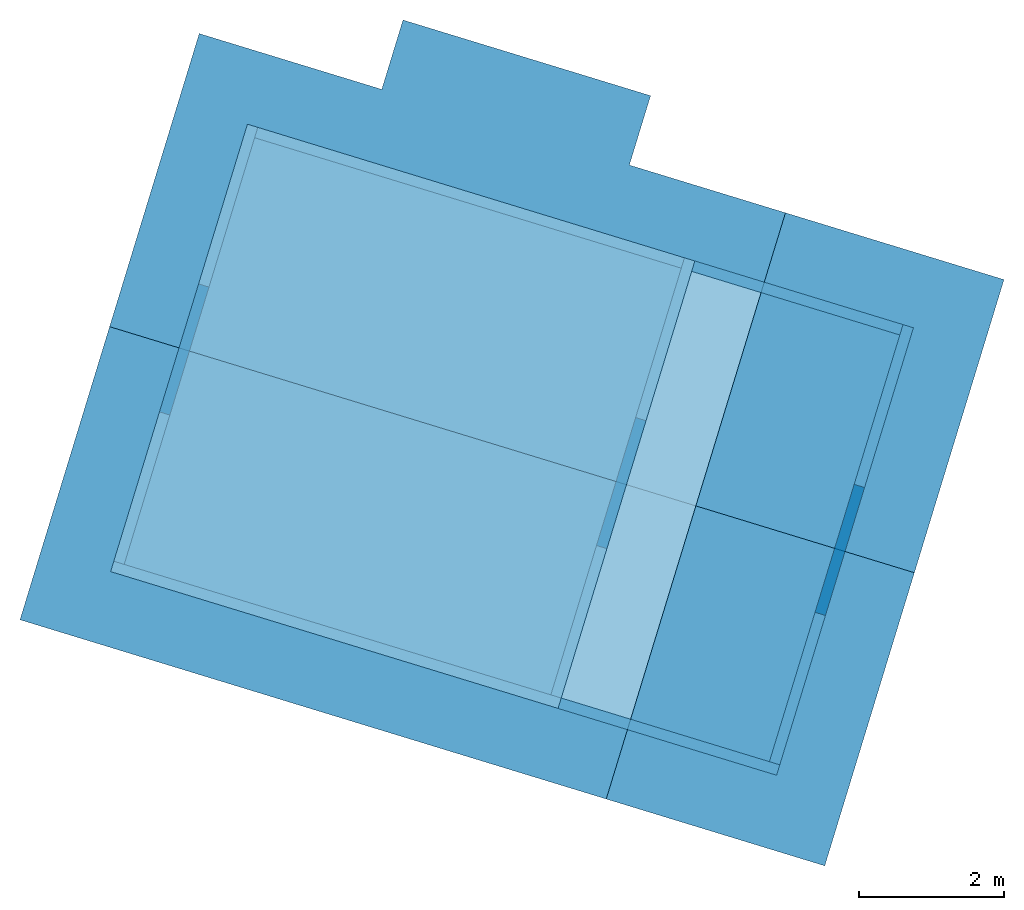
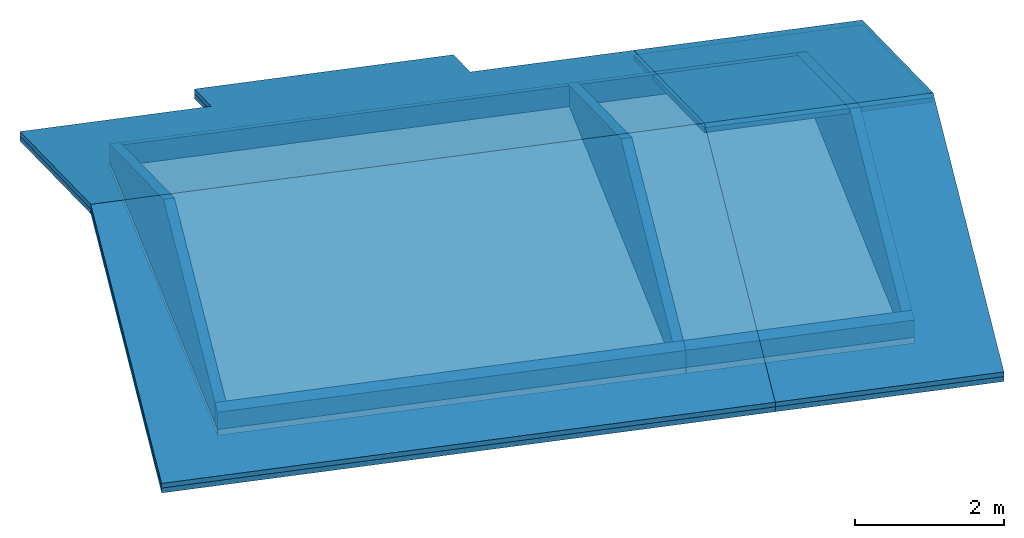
# One storey: 8 building element parts, 7 walls, 2 slabs, 4 elements without a shape of their own.
"""IFC2X3 building model written with IfcOpenShell, lengths in millimetres."""

from ifc_helpers import new_model, entity, si_unit, converted_unit, derived_unit, money_unit, direction, frame, origin_with_axes, place, context, subcontext, project, spatial, faceted_brep, material, type_object, element, aggregate, save


model = new_model("IFC2X3")

# Units and contexts
model_context = context("Model", 3, precision=0.01, world=origin_with_axes(), true_north=direction((0.0, 1.0)))
body_context = subcontext(model_context, "Body", "Model", "MODEL_VIEW")
ifc_project = project(units=[si_unit("LENGTHUNIT", "METRE", prefix="MILLI"), si_unit("AREAUNIT", "SQUARE_METRE"), si_unit("VOLUMEUNIT", "CUBIC_METRE"), converted_unit("PLANEANGLEUNIT", "DEGREE", entity("IfcPlaneAngleMeasure", 0.0174532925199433), si_unit("PLANEANGLEUNIT", "RADIAN"), dimensions=[0, 0, 0, 0, 0, 0, 0]), money_unit("USD"), converted_unit("TIMEUNIT", "Year", entity("IfcTimeMeasure", 31557600.0), si_unit("TIMEUNIT", "SECOND"), dimensions=[0, 0, 1, 0, 0, 0, 0]), si_unit("MASSUNIT", "GRAM", prefix="KILO"), si_unit("THERMODYNAMICTEMPERATUREUNIT", "DEGREE_CELSIUS"), si_unit("LUMINOUSINTENSITYUNIT", "LUMEN"), si_unit("ENERGYUNIT", "JOULE", prefix="MEGA"), derived_unit("THERMALCONDUCTANCEUNIT", [(si_unit("POWERUNIT", "WATT"), 1), (si_unit("LENGTHUNIT", "METRE"), -1), (si_unit("THERMODYNAMICTEMPERATUREUNIT", "KELVIN"), -1)]), derived_unit("SPECIFICHEATCAPACITYUNIT", [(si_unit("ENERGYUNIT", "JOULE"), 1), (si_unit("MASSUNIT", "GRAM", prefix="KILO"), -1), (si_unit("THERMODYNAMICTEMPERATUREUNIT", "KELVIN"), -1)]), derived_unit("MASSDENSITYUNIT", [(si_unit("MASSUNIT", "GRAM", prefix="KILO"), 1), (si_unit("VOLUMEUNIT", "CUBIC_METRE"), -1)])], contexts=[model_context])

# Site, building, storey
site_placement = place(None, frame((0.0, 0.0, 0.0), z_axis=(0.0, 0.0, 1.0), x_axis=(0.9563047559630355, -0.2923717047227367, 0.0)))
site = spatial("IfcSite", under=ifc_project, at=site_placement, Name="Site", CompositionType="ELEMENT")
building_placement = place(site_placement, origin_with_axes())
building = spatial("IfcBuilding", under=site, at=building_placement, Name="Casa Térrea Isolada", CompositionType="ELEMENT")
storey_placement = place(building_placement, frame((0.0, 0.0, 2500.0), z_axis=(0.0, 0.0, 1.0), x_axis=(1.0, 0.0, 0.0)))
storey = spatial("IfcBuildingStorey", under=building, at=storey_placement, Name="Cobertura", CompositionType="ELEMENT", Elevation=2500.0)

# Slabs
ifc_material_1 = material(Name="Concreto - Estrutural")
slab_type = type_object("IfcSlabType", Name="Concreto - Estrutural 100", PredefinedType="FLOOR")
slab_1_placement = place(storey_placement, frame((6449.999942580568, 0.002973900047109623, 0.0), z_axis=(0.0, 0.0, 1.0), x_axis=(1.0, 0.0, 0.0)))
element("IfcSlab", 1, at=slab_1_placement, inside=storey, type_object=slab_type, material=ifc_material_1, Name="Laje 02", PredefinedType="FLOOR", context=body_context, shape_type="Brep", body=[
    faceted_brep([(0.0, 0.0, 100.0000000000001), (0.0, 0.0, 0.0), (3149.997026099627, 0.0, 0.0), (3149.997026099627, 0.0, 100.0000000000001), (0.0, 6449.999930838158, 100.0000000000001), (0.0, 6449.999930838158, 0.0), (3149.997026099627, 6449.999930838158, 0.0), (3149.997026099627, 6449.999930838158, 100.0000000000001)], [[[0, 1, 2, 3]], [[4, 5, 1, 0]], [[2, 1, 5, 6]], [[3, 2, 6, 7]], [[4, 0, 3, 7]], [[7, 6, 5, 4]]]),
])
slab_2_placement = place(storey_placement, frame((-0.002973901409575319, 0.002973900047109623, 0.0), z_axis=(0.0, 0.0, 1.0), x_axis=(1.0, 0.0, 0.0)))
element("IfcSlab", 2, at=slab_2_placement, inside=storey, type_object=slab_type, material=ifc_material_1, Name="Laje 01", PredefinedType="FLOOR", context=body_context, shape_type="Brep", body=[
    faceted_brep([(0.0, 0.0, 100.0000000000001), (0.0, 0.0, 0.0), (6450.002916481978, 0.0, 0.0), (6450.002916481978, 0.0, 100.0000000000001), (0.0, 6449.999930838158, 100.0000000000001), (0.0, 6449.999930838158, 0.0), (6450.002916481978, 6449.999930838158, 0.0), (6450.002916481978, 6449.999930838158, 100.0000000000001)], [[[0, 1, 2, 3]], [[4, 5, 1, 0]], [[2, 1, 5, 6]], [[3, 2, 6, 7]], [[4, 0, 3, 7]], [[7, 6, 5, 4]]]),
])

# Walls
ifc_material_2 = material(Name="Bloco de Concreto - Estrutural")
wall_type = type_object("IfcWallType", Name="Bloco de Concreto - Estrutural 150", PredefinedType="NOTDEFINED")
wall_1_placement = place(storey_placement, frame((9524.996974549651, 6375.007296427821, 100.0000000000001), z_axis=(0.0, 0.0, 1.0), x_axis=(-0.9999999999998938, -4.610697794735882e-07, 0.0)))
element("IfcWall", 3, at=wall_1_placement, inside=storey, type_object=wall_type, material=ifc_material_2, Name="Parede 19", context=body_context, shape_type="Brep", body=[
    faceted_brep([(3074.999971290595, -75.00000000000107, 0.0), (3074.999971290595, -75.00000000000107, 280.7751206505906), (74.99999999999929, -75.00000000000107, 280.7751483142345), (74.99999999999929, -75.00000000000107, 0.0), (3074.999971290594, 74.99999999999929, 0.0), (3074.999971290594, 74.99999999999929, 340.775120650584), (74.99999999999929, 74.99999999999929, 340.7751483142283), (74.99999999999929, 74.99999999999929, 0.0)], [[[0, 1, 2, 3]], [[4, 5, 1, 0]], [[6, 2, 1, 5]], [[3, 2, 6, 7]], [[0, 3, 7, 4]], [[6, 5, 4, 7]]]),
])
wall_2_placement = place(storey_placement, frame((6374.997003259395, 6375.005844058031, 100.0000000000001), z_axis=(0.0, 0.0, 1.0), x_axis=(-0.9999999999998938, -4.610697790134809e-07, 0.0)))
element("IfcWall", 4, at=wall_2_placement, inside=storey, type_object=wall_type, material=ifc_material_2, Name="Parede 09", context=body_context, shape_type="Brep", body=[
    faceted_brep([(6224.999942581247, -75.00000000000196, 0.0), (6224.999942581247, -75.00000000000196, 280.7762825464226), (74.99999999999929, -75.00000000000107, 280.7751483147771), (74.99999999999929, -75.00000000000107, 0.0), (6224.999942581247, 74.99999999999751, 0.0), (6224.999942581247, 74.99999999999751, 340.776282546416), (74.99999999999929, 74.99999999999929, 340.7751483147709), (74.99999999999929, 74.99999999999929, 0.0)], [[[0, 1, 2, 3]], [[4, 5, 1, 0]], [[5, 6, 2, 1]], [[3, 2, 6, 7]], [[7, 4, 0, 3]], [[7, 6, 5, 4]]]),
])
wall_3_placement = place(storey_placement, frame((6374.999908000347, 75.00293931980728, 100.0000000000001), z_axis=(0.0, 0.0, 1.0), x_axis=(-4.610697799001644e-07, 0.9999999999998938, 0.0)))
element("IfcWall", 5, at=wall_3_placement, inside=storey, type_object=wall_type, material=ifc_material_2, Name="Parede 12", context=body_context, shape_type="Brep", body=[
    faceted_brep([(6375.002904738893, 75.00000000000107, 0.0), (6375.002904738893, 75.00000000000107, 280.7751483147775), (6375.002904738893, -74.99999999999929, 280.7751206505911), (6375.002904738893, -74.99999999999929, 0.0), (74.99999999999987, 75.00000000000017, 340.7786340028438), (3149.997095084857, 75.00000000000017, 1570.777472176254), (74.99999999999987, 75.00000000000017, 0.0), (3149.997025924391, -74.99999999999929, 1570.777472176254), (75.00000000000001, -75.00000000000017, 340.7786616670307), (75.00000000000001, -75.00000000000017, 0.0)], [[[0, 1, 2, 3]], [[4, 5, 1, 0, 6]], [[5, 7, 2, 1]], [[3, 2, 7, 8, 9]], [[9, 6, 0, 3]], [[8, 7, 5, 4]], [[9, 8, 4, 6]]]),
])
wall_4_placement = place(storey_placement, frame((74.99996541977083, 75.00003458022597, 100.0000000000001), z_axis=(0.0, 0.0, 1.0), x_axis=(-4.610697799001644e-07, 0.9999999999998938, 0.0)))
element("IfcWall", 6, at=wall_4_placement, inside=storey, type_object=wall_type, material=ifc_material_2, Name="Parede 11", context=body_context, shape_type="Brep", body=[
    faceted_brep([(6375.002904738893, 75.00000000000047, 0.0), (6375.002904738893, 75.00000000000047, 280.77631021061), (6375.002904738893, -74.99999999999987, 280.7762825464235), (6375.002904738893, -74.99999999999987, 0.0), (74.99999999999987, 75.00000000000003, 340.7774721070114), (3149.999999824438, 74.99999999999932, 1570.777472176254), (74.99999999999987, 75.00000000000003, 0.0), (3149.999930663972, -75.0000000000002, 1570.777472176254), (75.00000000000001, -75.00000000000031, 340.7774997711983), (75.00000000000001, -75.00000000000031, 0.0)], [[[0, 1, 2, 3]], [[4, 5, 1, 0, 6]], [[5, 7, 2, 1]], [[3, 2, 7, 8, 9]], [[9, 6, 0, 3]], [[8, 7, 5, 4]], [[9, 8, 4, 6]]]),
])
wall_5_placement = place(storey_placement, frame((9524.999879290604, 75.00439168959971, 100.0000000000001), z_axis=(0.0, 0.0, 1.0), x_axis=(-4.610697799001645e-07, 0.9999999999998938, 0.0)))
element("IfcWall", 7, at=wall_5_placement, inside=storey, type_object=wall_type, material=ifc_material_2, Name="Parede 21", context=body_context, shape_type="Brep", body=[
    faceted_brep([(6375.002904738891, 74.99999999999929, 0.0), (6375.002904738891, 74.99999999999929, 280.7751483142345), (6375.002904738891, -75.00000000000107, 280.7751206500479), (6375.002904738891, -75.00000000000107, 0.0), (75.00000000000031, 74.99999999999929, 340.7786340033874), (3149.997095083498, 75.00000000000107, 1570.777472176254), (74.99999999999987, 74.99999999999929, 0.0), (3149.997025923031, -74.99999999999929, 1570.777472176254), (75.00000000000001, -75.00000000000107, 340.7786616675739), (75.00000000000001, -75.00000000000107, 0.0)], [[[0, 1, 2, 3]], [[4, 5, 1, 0, 6]], [[5, 7, 2, 1]], [[3, 2, 7, 8, 9]], [[9, 6, 0, 3]], [[8, 7, 5, 4]], [[9, 8, 4, 6]]]),
])
wall_6_placement = place(storey_placement, frame((6374.999908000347, 75.00293931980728, 100.0000000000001), z_axis=(0.0, 0.0, 1.0), x_axis=(-0.9999999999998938, -4.610697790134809e-07, 0.0)))
element("IfcWall", 8, at=wall_6_placement, inside=storey, type_object=wall_type, material=ifc_material_2, Name="Parede 10", context=body_context, shape_type="Brep", body=[
    faceted_brep([(6374.999942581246, -75.00000000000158, 0.0), (6374.999942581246, -75.00000000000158, 340.7774721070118), (-75.00000000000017, -75.00000000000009, 340.7786616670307), (-75.00000000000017, -75.00000000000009, 0.0), (6374.999942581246, 74.99999999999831, 0.0), (6374.999942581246, 74.99999999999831, 280.7774721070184), (-75.00000000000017, 75.00000000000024, 280.7786616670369), (-75.00000000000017, 75.00000000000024, 0.0)], [[[0, 1, 2, 3]], [[4, 5, 1, 0]], [[5, 6, 2, 1]], [[3, 2, 6, 7]], [[3, 7, 4, 0]], [[7, 6, 5, 4]]]),
])
wall_7_placement = place(storey_placement, frame((9524.999879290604, 75.00439168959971, 100.0000000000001), z_axis=(0.0, 0.0, 1.0), x_axis=(-0.9999999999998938, -4.610697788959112e-07, 0.0)))
element("IfcWall", 9, at=wall_7_placement, inside=storey, type_object=wall_type, material=ifc_material_2, Name="Parede 20", context=body_context, shape_type="Brep", body=[
    faceted_brep([(3074.999971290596, -75.0000000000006, 0.0), (3074.999971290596, -75.0000000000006, 340.7786616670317), (-74.99999999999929, -75.0000000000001, 340.7786616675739), (-74.99999999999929, -75.0000000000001, 0.0), (3074.999971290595, 74.99999999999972, 0.0), (3074.999971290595, 74.99999999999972, 280.7786616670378), (-75.00000000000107, 75.00000000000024, 280.7786616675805), (-75.00000000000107, 75.00000000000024, 0.0)], [[[0, 1, 2, 3]], [[4, 5, 1, 0]], [[2, 1, 5, 6]], [[3, 2, 6, 7]], [[0, 3, 7, 4]], [[6, 5, 4, 7]]]),
])

# Roof, building element parts
roof_1_placement = place(storey_placement, frame((6450.002916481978, 0.0, 299.9999999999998), z_axis=(0.0, 0.0, 1.0), x_axis=(-1.0, 0.0, 0.0)))
roof_1 = element("IfcRoof", 10, at=roof_1_placement, inside=storey, Name="Telhado 02", ShapeType="NOTDEFINED")
ifc_material_3 = material(Name="Telha - Cobertura")
building_element_part_1_placement = place(roof_1_placement, origin_with_axes())
building_element_part_1 = element("IfcBuildingElementPart", 11, at=building_element_part_1_placement, material=ifc_material_3, Name="Telha - Cobertura", context=body_context, shape_type="Brep", body=[
    faceted_brep([(7450.000069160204, 1000.000000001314, -243.8302205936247), (-999.9999308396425, 1000.000000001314, -243.8302205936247), (-999.9999308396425, -3224.999999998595, 1446.169779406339), (7450.000069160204, -3224.999999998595, 1446.169779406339), (7450.000069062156, 999.9999999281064, -319.2225278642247), (-999.9999310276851, 999.9999999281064, -319.2225278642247), (-999.9999310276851, -3225.000000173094, 1370.777472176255), (7450.000069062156, -3225.000000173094, 1370.777472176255)], [[[0, 1, 2, 3]], [[4, 5, 1, 0]], [[5, 6, 2, 1]], [[6, 7, 3, 2]], [[7, 4, 0, 3]], [[6, 5, 4, 7]]]),
])
ifc_material_4 = material(Name="Madeiramento - Estrutural")
building_element_part_2_placement = place(roof_1_placement, origin_with_axes())
building_element_part_2 = element("IfcBuildingElementPart", 12, at=building_element_part_2_placement, material=ifc_material_4, Name="Madeiramento - Estrutural", context=body_context, shape_type="Brep", body=[
    faceted_brep([(0.00446085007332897, -3225.000000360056, 1290.000000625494), (0.004460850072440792, -3225.000000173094, 1370.777472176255), (-999.9999310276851, -3225.000000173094, 1370.777472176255), (-999.9999312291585, -3225.000000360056, 1290.000000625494), (0.003043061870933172, -150.0029739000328, 140.7786616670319), (0.003043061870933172, -150.0029739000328, 60.0011900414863), (-999.9999310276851, -150.0034349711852, 140.778846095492), (-999.9999312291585, -150.0034349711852, 60.00137446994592)], [[[0, 1, 2, 3]], [[4, 1, 0, 5]], [[1, 4, 6, 2]], [[6, 7, 3, 2]], [[5, 0, 3, 7]], [[7, 6, 4, 5]]]),
    faceted_brep([(6300.002985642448, -150.0000691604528, 140.7774997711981), (150.0030430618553, -150.0029047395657, 140.7786340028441), (150.0044608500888, -3225.000000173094, 1370.777472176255), (6300.004403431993, -3225.000000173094, 1370.777472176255), (150.0030430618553, -150.0029047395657, 60.00116237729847), (6300.002985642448, -150.0000691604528, 60.00002814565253), (150.0044608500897, -3225.000000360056, 1290.000000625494), (6300.004403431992, -3225.000000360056, 1290.000000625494)], [[[0, 1, 2, 3]], [[4, 1, 0, 5]], [[1, 4, 6, 2]], [[2, 6, 7, 3]], [[5, 0, 3, 7]], [[4, 5, 7, 6]]]),
    faceted_brep([(-999.9999312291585, -0.003434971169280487, 0.001374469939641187), (6450.002916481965, 0.0, 4.814726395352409e-07), (6450.002916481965, 0.0, 80.7774721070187), (-999.9999310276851, -0.003434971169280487, 80.77884609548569), (-999.9999312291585, 999.9999998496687, -399.9999994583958), (7450.000068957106, 999.9999998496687, -399.9999994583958), (7450.000068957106, -3225.000000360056, 1290.000000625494), (6450.004403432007, -3225.000000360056, 1290.000000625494), (6450.002985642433, -149.9999999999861, 60.00000048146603), (6450.002985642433, -149.9999999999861, 140.7774721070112), (6450.004403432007, -3225.000000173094, 1370.777472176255), (7450.000069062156, -3225.000000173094, 1370.777472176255), (7450.000069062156, 999.9999999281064, -319.2225278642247), (-999.9999310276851, 999.9999999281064, -319.2225278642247)], [[[0, 1, 2, 3]], [[1, 0, 4, 5, 6, 7, 8]], [[8, 9, 2, 1]], [[2, 9, 10, 11, 12, 13, 3]], [[0, 3, 13, 4]], [[4, 13, 12, 5]], [[5, 12, 11, 6]], [[10, 7, 6, 11]], [[9, 8, 7, 10]]]),
])
aggregate(roof_1, [building_element_part_1, building_element_part_2])

roof_2_placement = place(storey_placement, frame((0.0, 6449.999999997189, 299.9999999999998), z_axis=(0.0, 0.0, 1.0), x_axis=(1.0, 0.0, 0.0)))
roof_2 = element("IfcRoof", 13, at=roof_2_placement, inside=storey, Name="Telhado 01", ShapeType="NOTDEFINED")
building_element_part_3_placement = place(roof_2_placement, origin_with_axes())
building_element_part_3 = element("IfcBuildingElementPart", 14, at=building_element_part_3_placement, material=ifc_material_3, Name="Telha - Cobertura", context=body_context, shape_type="Brep", body=[
    faceted_brep([(5200.002859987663, 2000.000022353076, -643.8302295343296), (1631.398156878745, 2000.000022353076, -643.8302295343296), (1631.398156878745, 1000.00000000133, -243.8302205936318), (-999.997152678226, 1000.00000000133, -243.8302205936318), (-999.997152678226, -3224.999999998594, 1446.169779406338), (7450.002847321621, -3224.999999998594, 1446.169779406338), (7450.002847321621, 1000.00000000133, -243.8302205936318), (5200.002859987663, 1000.00000000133, -243.8302205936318), (5200.00286006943, 2000.00002254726, -719.2225369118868), (1631.398156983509, 2000.00002254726, -719.2225369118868), (1631.398156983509, 999.9999999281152, -319.2225278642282), (-999.9971528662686, 999.9999999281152, -319.2225278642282), (-999.9971528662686, -3225.000000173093, 1370.777472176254), (7450.002847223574, -3225.000000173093, 1370.777472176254), (7450.002847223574, 999.9999999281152, -319.2225278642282), (5200.00286006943, 999.9999999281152, -319.2225278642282)], [[[0, 1, 2, 3, 4, 5, 6, 7]], [[8, 9, 1, 0]], [[9, 10, 2, 1]], [[10, 11, 3, 2]], [[11, 12, 4, 3]], [[12, 13, 5, 4]], [[13, 14, 6, 5]], [[14, 15, 7, 6]], [[15, 8, 0, 7]], [[14, 13, 12, 11, 10, 9, 8, 15]]]),
])
building_element_part_4_placement = place(roof_2_placement, origin_with_axes())
building_element_part_4 = element("IfcBuildingElementPart", 15, at=building_element_part_4_placement, material=ifc_material_4, Name="Madeiramento - Estrutural", context=body_context, shape_type="Brep", body=[
    faceted_brep([(6299.998455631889, -3225.000000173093, 1370.777472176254), (6299.997037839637, -149.9941905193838, 140.7751483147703), (149.9970952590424, -149.9970260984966, 140.7762825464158), (149.9985130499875, -3225.000000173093, 1370.777472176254), (6299.997037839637, -149.9941905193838, 59.99767668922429), (6299.99845563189, -3225.000000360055, 1290.000000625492), (149.9970952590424, -149.9970260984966, 59.99881092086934), (149.9985130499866, -3225.000000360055, 1290.000000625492)], [[[0, 1, 2, 3]], [[4, 1, 0, 5]], [[1, 4, 6, 2]], [[3, 2, 6, 7]], [[5, 0, 3, 7]], [[4, 5, 7, 6]]]),
    faceted_brep([(6449.99703783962, -149.994121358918, 59.99764902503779), (6449.99703783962, -149.994121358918, 140.7751206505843), (7450.002847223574, -149.9936602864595, 140.7749362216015), (7450.002847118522, -149.9936602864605, 59.99746459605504), (6449.998455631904, -3225.000000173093, 1370.777472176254), (6449.998455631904, -3225.000000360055, 1290.000000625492), (7450.002847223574, -3225.000000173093, 1370.777472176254), (7450.002847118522, -3225.000000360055, 1290.000000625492)], [[[0, 1, 2, 3]], [[4, 1, 0, 5]], [[1, 4, 6, 2]], [[3, 2, 6, 7]], [[5, 0, 3, 7]], [[4, 5, 7, 6]]]),
    faceted_brep([(6299.996968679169, 0.005809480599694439, 80.77514831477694), (6449.996968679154, 0.005878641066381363, 80.77512065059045), (7450.002847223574, 0.006339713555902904, 80.77493622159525), (7450.002847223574, 999.9999999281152, -319.2225278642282), (5200.00286006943, 999.9999999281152, -319.2225278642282), (5200.00286006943, 2000.00002254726, -719.2225369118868), (1631.398156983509, 2000.00002254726, -719.2225369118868), (1631.398156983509, 999.9999999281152, -319.2225278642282), (-999.9971528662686, 999.9999999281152, -319.2225278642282), (-999.9971528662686, -3225.000000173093, 1370.777472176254), (-0.001486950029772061, -3225.000000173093, 1370.777472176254), (-0.002973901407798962, 0.002904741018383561, 80.77631021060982), (149.9970260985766, 0.002973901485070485, 80.77628254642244), (6449.996968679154, 0.005878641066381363, -0.002350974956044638), (6299.996968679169, 0.005809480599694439, -0.002323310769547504), (7450.002847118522, 0.006339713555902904, -0.002535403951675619), (7450.002847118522, 999.9999998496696, -399.9999994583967), (5200.002860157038, 999.9999998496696, -399.9999994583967), (5200.002860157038, 2000.000022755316, -800.0000086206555), (1631.398157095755, 2000.000022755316, -800.0000086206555), (1631.398157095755, 999.9999998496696, -399.9999994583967), (-999.997153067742, 999.9999998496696, -399.9999994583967), (-999.997153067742, -3225.000000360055, 1290.000000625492), (-0.001486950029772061, -3225.000000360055, 1290.000000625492), (-0.002973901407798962, 0.002904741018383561, -0.001161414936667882), (149.9970260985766, 0.002973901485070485, -0.001189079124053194)], [[[0, 1, 2, 3, 4, 5, 6, 7, 8, 9, 10, 11, 12]], [[13, 1, 0, 14]], [[1, 13, 15, 2]], [[2, 15, 16, 3]], [[16, 17, 4, 3]], [[17, 18, 5, 4]], [[18, 19, 6, 5]], [[19, 20, 7, 6]], [[20, 21, 8, 7]], [[21, 22, 9, 8]], [[23, 10, 9, 22]], [[11, 10, 23, 24]], [[25, 12, 11, 24]], [[14, 0, 12, 25]], [[13, 14, 25, 24, 23, 22, 21, 20, 19, 18, 17, 16, 15]]]),
])
aggregate(roof_2, [building_element_part_3, building_element_part_4])

roof_3_placement = place(storey_placement, frame((7450.002847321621, 6450.001452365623, 299.9999999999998), z_axis=(0.0, 0.0, 1.0), x_axis=(1.0, 0.0, 0.0)))
roof_3 = element("IfcRoof", 16, at=roof_3_placement, inside=storey, Name="Telhado 03", ShapeType="NOTDEFINED")
building_element_part_5_placement = place(roof_3_placement, origin_with_axes())
building_element_part_5 = element("IfcBuildingElementPart", 17, at=building_element_part_5_placement, material=ifc_material_3, Name="Telha - Cobertura", context=body_context, shape_type="Brep", body=[
    faceted_brep([(3149.996989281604, -3224.999999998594, 1446.169779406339), (3149.996989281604, 999.9999770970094, -243.8302114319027), (0.0, 999.9999770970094, -243.8302114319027), (0.0, -3224.999999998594, 1446.169779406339), (3149.996989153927, -3225.000000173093, 1370.777472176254), (3149.996989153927, 999.9999772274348, -319.2225187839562), (-1.880424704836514e-07, 999.9999772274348, -319.2225187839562), (-1.880424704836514e-07, -3225.000000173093, 1370.777472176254)], [[[0, 1, 2, 3]], [[4, 5, 1, 0]], [[5, 6, 2, 1]], [[6, 7, 3, 2]], [[7, 4, 0, 3]], [[6, 5, 4, 7]]]),
])
building_element_part_6_placement = place(roof_3_placement, origin_with_axes())
building_element_part_6 = element("IfcBuildingElementPart", 18, at=building_element_part_6_placement, material=ifc_material_4, Name="Madeiramento - Estrutural", context=body_context, shape_type="Brep", body=[
    faceted_brep([(1999.995579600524, -3225.000000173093, 1370.777472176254), (1999.994161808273, -149.9941905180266, 140.7751483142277), (-1.880424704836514e-07, -149.9951126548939, 140.7755171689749), (-1.880424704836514e-07, -3225.000000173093, 1370.777472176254), (1999.994161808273, -149.9941905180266, 59.99767668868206), (1999.995579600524, -3225.000000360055, 1290.000000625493), (-3.895159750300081e-07, -149.9951126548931, 59.9980455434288), (-3.895159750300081e-07, -3225.000000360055, 1290.000000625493)], [[[0, 1, 2, 3]], [[4, 1, 0, 5]], [[1, 4, 6, 2]], [[2, 6, 7, 3]], [[5, 0, 3, 7]], [[4, 5, 7, 6]]]),
    faceted_brep([(2149.994092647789, 0.005878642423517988, 80.77512065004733), (2149.995579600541, -3225.000000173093, 1370.777472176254), (3149.996989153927, -3225.000000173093, 1370.777472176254), (3149.996989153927, 999.9999772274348, -319.2225187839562), (-1.880424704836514e-07, 999.9999772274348, -319.2225187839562), (-1.880424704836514e-07, 0.004887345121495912, 80.77551716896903), (1999.994092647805, 0.005809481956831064, 80.77514831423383), (2149.994092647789, 0.005878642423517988, -0.002350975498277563), (2149.995579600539, -3225.000000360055, 1290.000000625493), (3149.996989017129, -3225.000000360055, 1290.000000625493), (3149.996989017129, 999.9999773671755, -399.9999904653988), (-3.895159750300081e-07, 999.9999773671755, -399.9999904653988), (-3.895159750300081e-07, 0.004887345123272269, -0.001954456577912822), (1999.994092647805, 0.005809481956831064, -0.002323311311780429)], [[[0, 1, 2, 3, 4, 5, 6]], [[1, 0, 7, 8]], [[1, 8, 9, 2]], [[2, 9, 10, 3]], [[3, 10, 11, 4]], [[12, 5, 4, 11]], [[13, 6, 5, 12]], [[0, 6, 13, 7]], [[7, 13, 12, 11, 10, 9, 8]]]),
])
aggregate(roof_3, [building_element_part_5, building_element_part_6])

roof_4_placement = place(storey_placement, frame((9599.999942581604, 0.001452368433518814, 299.9999999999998), z_axis=(0.0, 0.0, 1.0), x_axis=(-1.0, 0.0, 0.0)))
roof_4 = element("IfcRoof", 19, at=roof_4_placement, inside=storey, Name="Telhado 04", ShapeType="NOTDEFINED")
building_element_part_7_placement = place(roof_4_placement, origin_with_axes())
building_element_part_7 = element("IfcBuildingElementPart", 20, at=building_element_part_7_placement, material=ifc_material_3, Name="Telha - Cobertura", context=body_context, shape_type="Brep", body=[
    faceted_brep([(2149.997095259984, 1000.000000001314, -243.8302205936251), (-999.9999308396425, 1000.000000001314, -243.8302205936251), (-999.9999308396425, -3224.999999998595, 1446.169779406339), (2149.997095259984, -3224.999999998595, 1446.169779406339), (2149.997095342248, 999.9999999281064, -319.2225278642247), (-999.9999310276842, 999.9999999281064, -319.2225278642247), (-999.9999310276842, -3225.000000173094, 1370.777472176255), (2149.997095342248, -3225.000000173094, 1370.777472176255)], [[[0, 1, 2, 3]], [[4, 5, 1, 0]], [[5, 6, 2, 1]], [[6, 7, 3, 2]], [[7, 4, 0, 3]], [[6, 5, 4, 7]]]),
])
building_element_part_8_placement = place(roof_4_placement, origin_with_axes())
building_element_part_8 = element("IfcBuildingElementPart", 21, at=building_element_part_8_placement, material=ifc_material_4, Name="Madeiramento - Estrutural", context=body_context, shape_type="Brep", body=[
    faceted_brep([(2149.997095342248, -150.0019826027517, 140.7782651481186), (150.0000978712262, -150.0029047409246, 140.7786340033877), (150.0015156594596, -3225.000000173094, 1370.777472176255), (2149.997095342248, -3225.000000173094, 1370.777472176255), (150.0000978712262, -150.0029047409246, 60.00116237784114), (2149.99709543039, -150.0019826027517, 60.0007935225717), (150.0015156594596, -3225.000000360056, 1290.000000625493), (2149.99709543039, -3225.000000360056, 1290.000000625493)], [[[0, 1, 2, 3]], [[4, 1, 0, 5]], [[1, 4, 6, 2]], [[2, 6, 7, 3]], [[5, 0, 3, 7]], [[4, 5, 7, 6]]]),
    faceted_brep([(9.787124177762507e-05, -150.0029739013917, 60.00119004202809), (9.787124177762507e-05, -150.0029739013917, 140.7786616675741), (0.001515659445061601, -3225.000000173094, 1370.777472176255), (0.001515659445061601, -3225.000000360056, 1290.000000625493), (2.871077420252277e-05, -0.002973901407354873, 80.77866166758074), (2.871077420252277e-05, -0.002973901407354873, 0.001190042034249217), (2149.997095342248, -0.001982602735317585, 80.77826514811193), (2149.997095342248, 999.9999999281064, -319.2225278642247), (-999.9999310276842, 999.9999999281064, -319.2225278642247), (-999.9999310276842, -3225.000000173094, 1370.777472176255), (-999.9999312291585, -3225.000000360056, 1290.000000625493), (-999.9999312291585, 999.9999998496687, -399.9999994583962), (2149.99709543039, 999.9999998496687, -399.9999994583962), (2149.99709543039, -0.001982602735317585, 0.0007935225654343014)], [[[0, 1, 2, 3]], [[4, 1, 0, 5]], [[4, 6, 7, 8, 9, 2, 1]], [[3, 2, 9, 10]], [[5, 0, 3, 10, 11, 12, 13]], [[6, 4, 5, 13]], [[6, 13, 12, 7]], [[12, 11, 8, 7]], [[11, 10, 9, 8]]]),
])
aggregate(roof_4, [building_element_part_7, building_element_part_8])

save(model, "model.ifc")
